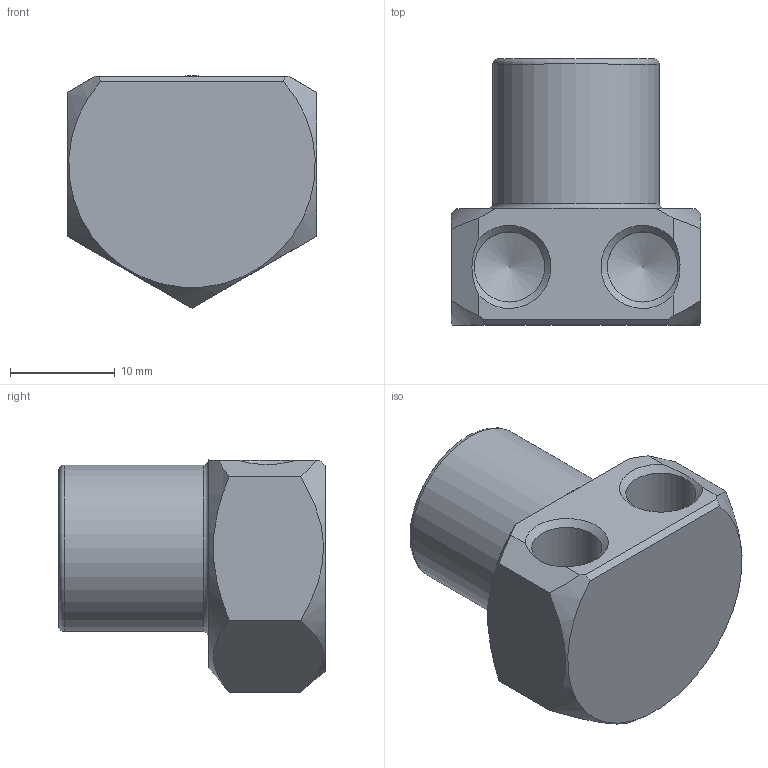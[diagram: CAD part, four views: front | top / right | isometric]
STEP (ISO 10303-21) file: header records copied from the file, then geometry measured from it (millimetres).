
FILE_DESCRIPTION(/* description */ (''),/* implementation_level */ '2;1');
FILE_NAME(/* name */ 'C:/Users/drich/Desktop/ET1816H v3.step',/* time_stamp */ '2019-11-18T13:38:02-06:00',/* author */ (''),/* organization */ (''),/* preprocessor_version */ 'ST-DEVELOPER v18',/* originating_system */ 'Autodesk Translation Framework v8.12.0.6',/* authorisation */ '');
FILE_SCHEMA (('AUTOMOTIVE_DESIGN { 1 0 10303 214 3 1 1 }'));
Length unit declared in the file: inch
Products named in the file (2): ET1816H; ET1414H
Assembly tree (1 placements, depth 2):
  ET1816H
    ET1414H
Bounding box: 23.77 x 25.4 x 22.17 mm (x, y, z)
Volume: 5798.9 mm3; surface area: 3380.3 mm2
Topology: 1 solids, 1 shells, 28 faces, 73 edges, 47 vertices
Faces by surface type: plane 14, cone 7, cylinder 5, torus 2
Full cylindrical faces by diameter (mm): 5.474 x1, 6.697 x2, 8.707 x1, 15.875 x1
Entity records: 904 total; most frequent: CARTESIAN_POINT 181, DIRECTION 148, ORIENTED_EDGE 142, EDGE_CURVE 71, AXIS2_PLACEMENT_3D 62, VERTEX_POINT 47, EDGE_LOOP 30, FACE_OUTER_BOUND 28
